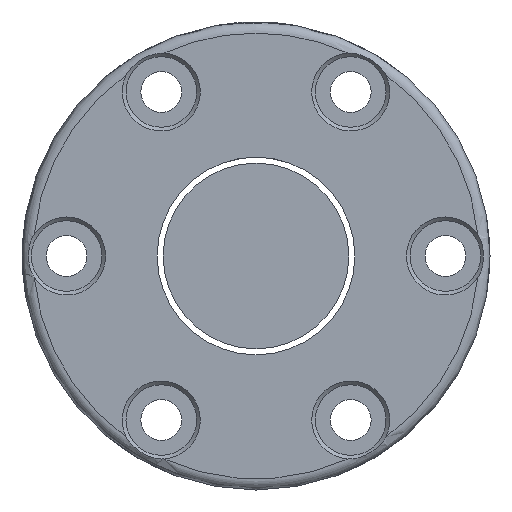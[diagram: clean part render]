
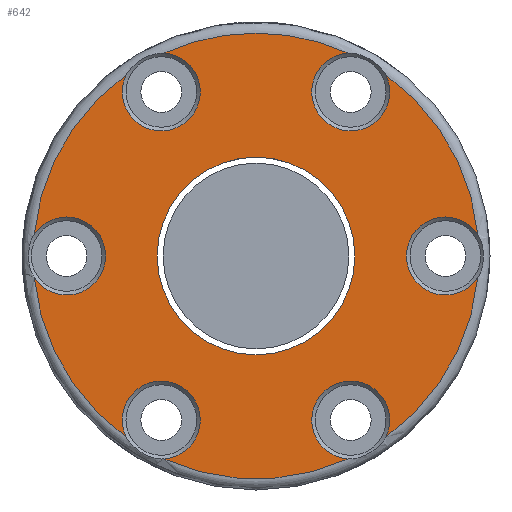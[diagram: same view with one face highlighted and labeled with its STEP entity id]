
A CAD part, left-side view. The second image highlights one B-rep face of the part: STEP entity #642.
In plain terms, the highlighted planar face has unit normal (-1, 0, 0).
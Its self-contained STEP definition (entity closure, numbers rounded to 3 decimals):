
#15 = AXIS2_PLACEMENT_3D ( 'NONE', #179, #2097, #1135 ) ;
#36 = CARTESIAN_POINT ( 'NONE',  ( -46., -25.5, 0. ) ) ;
#37 = CIRCLE ( 'NONE', #1784, 5.25 ) ;
#57 = EDGE_CURVE ( 'NONE', #1961, #2309, #1021, .T. ) ;
#69 = AXIS2_PLACEMENT_3D ( 'NONE', #1138, #835, #649 ) ;
#101 = AXIS2_PLACEMENT_3D ( 'NONE', #1438, #961, #495 ) ;
#116 = VERTEX_POINT ( 'NONE', #3011 ) ;
#179 = CARTESIAN_POINT ( 'NONE',  ( -46., 0., 0. ) ) ;
#182 = VERTEX_POINT ( 'NONE', #2091 ) ;
#186 = CARTESIAN_POINT ( 'NONE',  ( -46., 12.391, 27.321 ) ) ;
#288 = CARTESIAN_POINT ( 'NONE',  ( -46., -17.465, -24.392 ) ) ;
#302 = DIRECTION ( 'NONE',  ( 0., 0., 1. ) ) ;
#330 = ORIENTED_EDGE ( 'NONE', *, *, #1302, .T. ) ;
#342 = EDGE_LOOP ( 'NONE', ( #2577 ) ) ;
#343 = FACE_OUTER_BOUND ( 'NONE', #1361, .T. ) ;
#350 = DIRECTION ( 'NONE',  ( 0., 0., 1. ) ) ;
#417 = CARTESIAN_POINT ( 'NONE',  ( -46., -29.857, -2.93 ) ) ;
#495 = DIRECTION ( 'NONE',  ( 0., 0., 1. ) ) ;
#511 = CIRCLE ( 'NONE', #2009, 5.25 ) ;
#632 = CARTESIAN_POINT ( 'NONE',  ( -46., 17.465, -24.392 ) ) ;
#642 = ADVANCED_FACE ( 'NONE', ( #343, #2928 ), #1047, .T. ) ;
#649 = DIRECTION ( 'NONE',  ( 0., 0., 1. ) ) ;
#703 = DIRECTION ( 'NONE',  ( 0., 0., 1. ) ) ;
#707 = VERTEX_POINT ( 'NONE', #799 ) ;
#799 = CARTESIAN_POINT ( 'NONE',  ( -46., 12.391, -27.321 ) ) ;
#803 = CIRCLE ( 'NONE', #2561, 13.3 ) ;
#808 = CARTESIAN_POINT ( 'NONE',  ( -46., -12.391, 27.321 ) ) ;
#811 = AXIS2_PLACEMENT_3D ( 'NONE', #1173, #938, #2354 ) ;
#835 = DIRECTION ( 'NONE',  ( 1., 0., 0. ) ) ;
#873 = DIRECTION ( 'NONE',  ( -1., 0., 0. ) ) ;
#888 = VERTEX_POINT ( 'NONE', #186 ) ;
#915 = CIRCLE ( 'NONE', #2678, 30. ) ;
#938 = DIRECTION ( 'NONE',  ( 1., 0., 0. ) ) ;
#941 = ORIENTED_EDGE ( 'NONE', *, *, #1163, .T. ) ;
#947 = CARTESIAN_POINT ( 'NONE',  ( -46., 29.857, -2.93 ) ) ;
#953 = DIRECTION ( 'NONE',  ( -1., 0., 0. ) ) ;
#961 = DIRECTION ( 'NONE',  ( -1., 0., 0. ) ) ;
#1021 = CIRCLE ( 'NONE', #69, 5.25 ) ;
#1047 = PLANE ( 'NONE',  #1320 ) ;
#1054 = ORIENTED_EDGE ( 'NONE', *, *, #3110, .T. ) ;
#1061 = EDGE_CURVE ( 'NONE', #182, #1961, #1867, .T. ) ;
#1082 = CARTESIAN_POINT ( 'NONE',  ( -46., -12.75, 22.084 ) ) ;
#1100 = EDGE_CURVE ( 'NONE', #2875, #707, #2265, .T. ) ;
#1135 = DIRECTION ( 'NONE',  ( 0., 0., 1. ) ) ;
#1138 = CARTESIAN_POINT ( 'NONE',  ( -46., 25.5, 0. ) ) ;
#1143 = ORIENTED_EDGE ( 'NONE', *, *, #1500, .T. ) ;
#1150 = VERTEX_POINT ( 'NONE', #417 ) ;
#1163 = EDGE_CURVE ( 'NONE', #888, #182, #2970, .T. ) ;
#1173 = CARTESIAN_POINT ( 'NONE',  ( -46., -12.75, -22.084 ) ) ;
#1292 = VERTEX_POINT ( 'NONE', #808 ) ;
#1302 = EDGE_CURVE ( 'NONE', #707, #2095, #915, .T. ) ;
#1320 = AXIS2_PLACEMENT_3D ( 'NONE', #2007, #2968, #2020 ) ;
#1361 = EDGE_LOOP ( 'NONE', ( #941, #2595, #2671, #1054, #2954, #330, #1143, #3075, #2845, #2687, #1713, #2468 ) ) ;
#1375 = CARTESIAN_POINT ( 'NONE',  ( -46., 12.75, 22.084 ) ) ;
#1438 = CARTESIAN_POINT ( 'NONE',  ( -46., 0., 0. ) ) ;
#1466 = CIRCLE ( 'NONE', #101, 30. ) ;
#1481 = AXIS2_PLACEMENT_3D ( 'NONE', #1686, #2659, #2203 ) ;
#1497 = AXIS2_PLACEMENT_3D ( 'NONE', #2206, #1792, #350 ) ;
#1500 = EDGE_CURVE ( 'NONE', #2095, #2612, #2175, .T. ) ;
#1524 = VERTEX_POINT ( 'NONE', #1896 ) ;
#1546 = DIRECTION ( 'NONE',  ( 0., 0., 1. ) ) ;
#1618 = AXIS2_PLACEMENT_3D ( 'NONE', #1375, #2925, #302 ) ;
#1643 = CARTESIAN_POINT ( 'NONE',  ( -46., 0., 0. ) ) ;
#1686 = CARTESIAN_POINT ( 'NONE',  ( -46., 0., 0. ) ) ;
#1713 = ORIENTED_EDGE ( 'NONE', *, *, #1895, .T. ) ;
#1784 = AXIS2_PLACEMENT_3D ( 'NONE', #36, #2992, #1546 ) ;
#1792 = DIRECTION ( 'NONE',  ( -1., 0., 0. ) ) ;
#1809 = VERTEX_POINT ( 'NONE', #2482 ) ;
#1833 = DIRECTION ( 'NONE',  ( 0., 0., 1. ) ) ;
#1867 = CIRCLE ( 'NONE', #15, 30. ) ;
#1895 = EDGE_CURVE ( 'NONE', #1524, #1292, #511, .T. ) ;
#1896 = CARTESIAN_POINT ( 'NONE',  ( -46., -17.465, 24.392 ) ) ;
#1937 = CIRCLE ( 'NONE', #2597, 30. ) ;
#1961 = VERTEX_POINT ( 'NONE', #2092 ) ;
#2007 = CARTESIAN_POINT ( 'NONE',  ( -46., 31.5, 0. ) ) ;
#2009 = AXIS2_PLACEMENT_3D ( 'NONE', #1082, #2563, #2039 ) ;
#2020 = DIRECTION ( 'NONE',  ( 0., 0., 1. ) ) ;
#2021 = CARTESIAN_POINT ( 'NONE',  ( -46., 0., 0. ) ) ;
#2022 = EDGE_CURVE ( 'NONE', #1292, #888, #1466, .T. ) ;
#2039 = DIRECTION ( 'NONE',  ( 0., 0., 1. ) ) ;
#2071 = CIRCLE ( 'NONE', #1481, 30. ) ;
#2091 = CARTESIAN_POINT ( 'NONE',  ( -46., 17.465, 24.392 ) ) ;
#2092 = CARTESIAN_POINT ( 'NONE',  ( -46., 29.857, 2.93 ) ) ;
#2095 = VERTEX_POINT ( 'NONE', #2632 ) ;
#2097 = DIRECTION ( 'NONE',  ( -1., 0., 0. ) ) ;
#2144 = EDGE_CURVE ( 'NONE', #1809, #1809, #803, .T. ) ;
#2175 = CIRCLE ( 'NONE', #811, 5.25 ) ;
#2203 = DIRECTION ( 'NONE',  ( 0., 0., 1. ) ) ;
#2206 = CARTESIAN_POINT ( 'NONE',  ( -46., 0., 0. ) ) ;
#2265 = CIRCLE ( 'NONE', #2823, 5.25 ) ;
#2309 = VERTEX_POINT ( 'NONE', #947 ) ;
#2334 = DIRECTION ( 'NONE',  ( 0., 0., 1. ) ) ;
#2343 = CIRCLE ( 'NONE', #1497, 30. ) ;
#2354 = DIRECTION ( 'NONE',  ( 0., 0., 1. ) ) ;
#2416 = EDGE_CURVE ( 'NONE', #116, #1524, #1937, .T. ) ;
#2468 = ORIENTED_EDGE ( 'NONE', *, *, #2022, .T. ) ;
#2482 = CARTESIAN_POINT ( 'NONE',  ( -46., 0., -13.3 ) ) ;
#2507 = EDGE_CURVE ( 'NONE', #2612, #1150, #2343, .T. ) ;
#2561 = AXIS2_PLACEMENT_3D ( 'NONE', #1643, #2833, #2882 ) ;
#2563 = DIRECTION ( 'NONE',  ( 1., 0., 0. ) ) ;
#2577 = ORIENTED_EDGE ( 'NONE', *, *, #2144, .T. ) ;
#2591 = EDGE_CURVE ( 'NONE', #1150, #116, #37, .T. ) ;
#2595 = ORIENTED_EDGE ( 'NONE', *, *, #1061, .T. ) ;
#2597 = AXIS2_PLACEMENT_3D ( 'NONE', #2021, #873, #1833 ) ;
#2612 = VERTEX_POINT ( 'NONE', #288 ) ;
#2632 = CARTESIAN_POINT ( 'NONE',  ( -46., -12.391, -27.321 ) ) ;
#2659 = DIRECTION ( 'NONE',  ( -1., 0., 0. ) ) ;
#2671 = ORIENTED_EDGE ( 'NONE', *, *, #57, .T. ) ;
#2678 = AXIS2_PLACEMENT_3D ( 'NONE', #2872, #953, #703 ) ;
#2687 = ORIENTED_EDGE ( 'NONE', *, *, #2416, .T. ) ;
#2819 = CARTESIAN_POINT ( 'NONE',  ( -46., 12.75, -22.084 ) ) ;
#2823 = AXIS2_PLACEMENT_3D ( 'NONE', #2819, #3058, #2334 ) ;
#2833 = DIRECTION ( 'NONE',  ( 1., 0., 0. ) ) ;
#2845 = ORIENTED_EDGE ( 'NONE', *, *, #2591, .T. ) ;
#2872 = CARTESIAN_POINT ( 'NONE',  ( -46., 0., 0. ) ) ;
#2875 = VERTEX_POINT ( 'NONE', #632 ) ;
#2882 = DIRECTION ( 'NONE',  ( 0., 0., -1. ) ) ;
#2925 = DIRECTION ( 'NONE',  ( 1., 0., 0. ) ) ;
#2928 = FACE_BOUND ( 'NONE', #342, .T. ) ;
#2954 = ORIENTED_EDGE ( 'NONE', *, *, #1100, .T. ) ;
#2968 = DIRECTION ( 'NONE',  ( -1., 0., 0. ) ) ;
#2970 = CIRCLE ( 'NONE', #1618, 5.25 ) ;
#2992 = DIRECTION ( 'NONE',  ( 1., 0., 0. ) ) ;
#3011 = CARTESIAN_POINT ( 'NONE',  ( -46., -29.857, 2.93 ) ) ;
#3058 = DIRECTION ( 'NONE',  ( 1., 0., 0. ) ) ;
#3075 = ORIENTED_EDGE ( 'NONE', *, *, #2507, .T. ) ;
#3110 = EDGE_CURVE ( 'NONE', #2309, #2875, #2071, .T. ) ;
